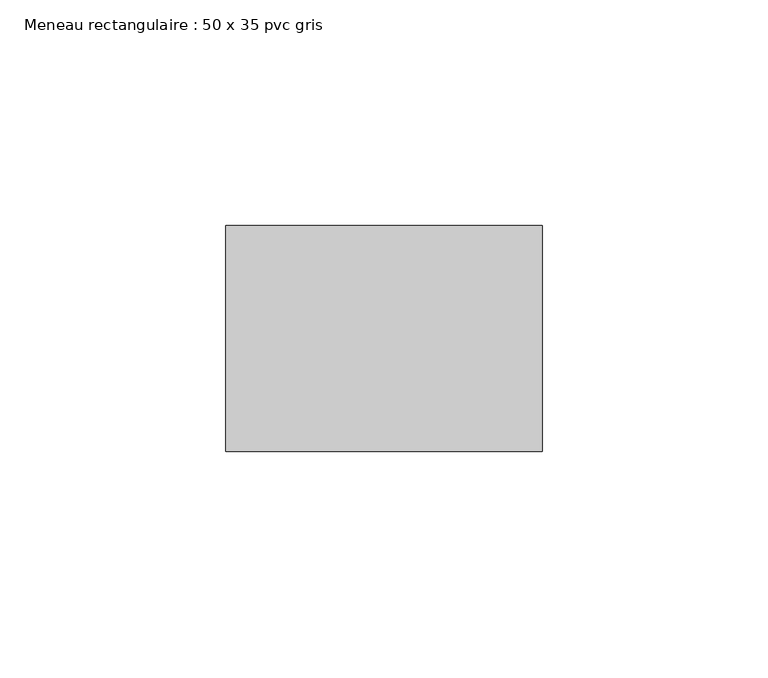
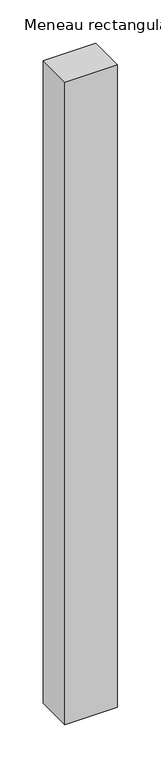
"""IFC4 building model written with IfcOpenShell, lengths in millimetres: member geometry, Meneau rectangulaire : 50 x 35 pvc gris."""

import ifcopenshell
import ifcopenshell.guid

model = None  # the IFC model being written
_history = None  # IfcOwnerHistory: only IFC2X3 demands one
_inside = {}  # id of a spatial element -> (the spatial element, [elements in it])
_under = {}  # id of a project, library or spatial element -> (it, [spatial elements below it])
_declared = {}  # id of a project -> (the project, [libraries it declares])
_typed = {}  # id of a type object -> (the type object, [elements of that type])
_made_of = {}  # id of a material, layer set ... -> (it, [elements and type objects made of it])


def new_model(schema):
    """Start an empty IFC model of exactly this schema.

    Asked for "IFC4X3", IfcOpenShell would pick the latest addendum, in which some entities
    have other attributes; the version numbers below select the first issue.
    IFC2X3 requires an IfcOwnerHistory on every rooted entity: one is made here for all.
    """
    global model, _history
    if schema == "IFC4X3":
        model = ifcopenshell.file(schema_version=(4, 3, 0, 0))
    else:
        model = ifcopenshell.file(schema=schema)
    _inside.clear()
    _under.clear()
    _declared.clear()
    _typed.clear()
    _made_of.clear()
    _history = None
    if model.schema == "IFC2X3":
        org = make("IfcOrganization", Name="unknown")
        user = make(
            "IfcPersonAndOrganization",
            ThePerson=make("IfcPerson", FamilyName="unknown"),
            TheOrganization=org,
        )
        app = make(
            "IfcApplication",
            ApplicationDeveloper=org,
            Version="unknown",
            ApplicationFullName="unknown",
            ApplicationIdentifier="unknown",
        )
        _history = make(
            "IfcOwnerHistory",
            OwningUser=user,
            OwningApplication=app,
            ChangeAction="ADDED",
            CreationDate=0,
        )
    return model


def make(cls, **values):
    """One entity of the class cls with the attributes given. An attribute that is None is left unset."""
    return model.create_entity(
        cls, **{name: value for name, value in values.items() if value is not None}
    )


def rooted(cls, **values):
    """An entity with a GlobalId (a new one), such as an element, a storey or a relation."""
    return make(cls, GlobalId=ifcopenshell.guid.new(), OwnerHistory=_history, **values)


def si_unit(unit_type, name, prefix=None):
    """IfcSIUnit, for example si_unit("LENGTHUNIT", "METRE", prefix="MILLI")."""
    return make("IfcSIUnit", UnitType=unit_type, Prefix=prefix, Name=name)


def assignment(units):
    """IfcUnitAssignment: the units of a project."""
    return None if units is None else make("IfcUnitAssignment", Units=units)


def point(xyz):
    """IfcCartesianPoint."""
    return None if xyz is None else make("IfcCartesianPoint", Coordinates=xyz)


def direction(xyz):
    """IfcDirection."""
    return None if xyz is None else make("IfcDirection", DirectionRatios=xyz)


def frame(location, z_axis=None, x_axis=None):
    """IfcAxis2Placement3D, a coordinate frame: its origin and axes. An axis left out is left unset."""
    return make(
        "IfcAxis2Placement3D",
        Location=point(location),
        Axis=direction(z_axis),
        RefDirection=direction(x_axis),
    )


def origin():
    """The frame at (0, 0, 0) with its axes left unset."""
    return frame((0.0, 0.0, 0.0))


def place(relative_to, where):
    """IfcLocalPlacement: puts the frame where relative to a parent placement (None: the world)."""
    return make(
        "IfcLocalPlacement", PlacementRelTo=relative_to, RelativePlacement=where
    )


def context(
    kind, dimensions, precision=None, world=None, true_north=None, identifier=None
):
    """IfcGeometricRepresentationContext, for example the 3D "Model" context."""
    return make(
        "IfcGeometricRepresentationContext",
        ContextIdentifier=identifier,
        ContextType=kind,
        CoordinateSpaceDimension=dimensions,
        Precision=precision,
        WorldCoordinateSystem=world,
        TrueNorth=true_north,
    )


def project(units=None, contexts=None):
    """IfcProject with its units and contexts."""
    return rooted(
        "IfcProject",
        Name="project",
        RepresentationContexts=contexts,
        UnitsInContext=assignment(units),
    )


def spatial(cls, under=None, at=None, **own):
    """A site, building, storey or space (cls), placed at a placement, below another one or the project."""
    s = rooted(cls, ObjectPlacement=at, **own)
    if under is not None:
        _under.setdefault(under.id(), (under, []))[1].append(s)
    return s


def polyline(points):
    """IfcPolyline through the points."""
    return make("IfcPolyline", Points=[point(p) for p in points])


def outline(outer, holes=None, kind="AREA"):
    """IfcArbitraryClosedProfileDef: a profile drawn as a closed curve; with holes, ...WithVoids."""
    if holes is None:
        return make("IfcArbitraryClosedProfileDef", ProfileType=kind, OuterCurve=outer)
    return make(
        "IfcArbitraryProfileDefWithVoids",
        ProfileType=kind,
        OuterCurve=outer,
        InnerCurves=holes,
    )


def extrude(swept, where, along, depth):
    """IfcExtrudedAreaSolid: the profile swept, set in the frame where, extruded along a direction by depth."""
    return make(
        "IfcExtrudedAreaSolid",
        SweptArea=swept,
        Position=where,
        ExtrudedDirection=direction(along),
        Depth=depth,
    )


def shape(context_of_items, identifier, shape_type, items):
    """IfcShapeRepresentation: the items that make up one representation, for example the "Body"."""
    return make(
        "IfcShapeRepresentation",
        ContextOfItems=context_of_items,
        RepresentationIdentifier=identifier,
        RepresentationType=shape_type,
        Items=items,
    )


def source(mapping_origin, context_of_items, identifier, shape_type, items):
    """IfcRepresentationMap: a shape defined once, which mapped items show again and again."""
    return make(
        "IfcRepresentationMap",
        MappingOrigin=mapping_origin,
        MappedRepresentation=shape(context_of_items, identifier, shape_type, items),
    )


def transform(
    local_origin,
    x_axis=None,
    y_axis=None,
    z_axis=None,
    scale=None,
    scale2=None,
    scale3=None,
    uniform=True,
):
    """IfcCartesianTransformationOperator3D, or its non-uniform kind. x_axis, y_axis, z_axis: its Axis1, 2, 3."""
    if uniform:
        return make(
            "IfcCartesianTransformationOperator3D",
            Axis1=direction(x_axis),
            Axis2=direction(y_axis),
            LocalOrigin=point(local_origin),
            Scale=scale,
            Axis3=direction(z_axis),
        )
    return make(
        "IfcCartesianTransformationOperator3DnonUniform",
        Axis1=direction(x_axis),
        Axis2=direction(y_axis),
        LocalOrigin=point(local_origin),
        Scale=scale,
        Axis3=direction(z_axis),
        Scale2=scale2,
        Scale3=scale3,
    )


def mapped(mapping_source, mapping_target):
    """IfcMappedItem: shows the shape of a source again, moved by a transform."""
    return make(
        "IfcMappedItem", MappingSource=mapping_source, MappingTarget=mapping_target
    )


def made_of(thing, what):
    """Note that an element or type object is made of a material, layer set ...; save() writes the relation."""
    if what is not None:
        _made_of.setdefault(what.id(), (what, []))[1].append(thing)
    return thing


def element(
    cls,
    number,
    at=None,
    inside=None,
    cuts=None,
    type_object=None,
    material=None,
    context=None,
    identifier="Body",
    shape_type=None,
    held_by="IfcProductDefinitionShape",
    body=None,
    shapes=None,
    **own,
):
    """One element of the class cls, such as IfcWall. Its Tag is "e" and its number.

    at: its placement. inside: the storey or other place that contains it. cuts: it is an
    opening in that element (IfcRelVoidsElement). A single representation is given by context,
    identifier, shape_type and body (its items); several are given by shapes. held_by: the class
    of the entity that holds the representations. save() writes the other relations.
    """
    e = rooted(cls, Tag="e%d" % number, ObjectPlacement=at, **own)
    if body is not None:
        shapes = [shape(context, identifier, shape_type, body)]
    if shapes is not None:
        e.Representation = make(held_by, Representations=shapes)
    if inside is not None:
        _inside.setdefault(inside.id(), (inside, []))[1].append(e)
    if cuts is not None:
        rooted(
            "IfcRelVoidsElement", RelatingBuildingElement=cuts, RelatedOpeningElement=e
        )
    if type_object is not None:
        _typed.setdefault(type_object.id(), (type_object, []))[1].append(e)
    return made_of(e, material)


def aggregate(whole, parts):
    """IfcRelAggregates: a whole, such as a stair, and the parts it consists of."""
    return rooted("IfcRelAggregates", RelatingObject=whole, RelatedObjects=parts)


def save(model, path):
    """Write the relations noted so far, then the file.

    IfcRelAggregates (storeys below a building ...), IfcRelContainedInSpatialStructure (elements
    in a storey), IfcRelDefinesByType, IfcRelAssociatesMaterial and IfcRelDeclares: one each for
    every whole, place, type object, material and project.
    """
    for whole, parts in _under.values():
        aggregate(whole, parts)
    for where, things in _inside.values():
        rooted(
            "IfcRelContainedInSpatialStructure",
            RelatedElements=things,
            RelatingStructure=where,
        )
    for kind, things in _typed.values():
        rooted("IfcRelDefinesByType", RelatedObjects=things, RelatingType=kind)
    for what, things in _made_of.values():
        rooted("IfcRelAssociatesMaterial", RelatedObjects=things, RelatingMaterial=what)
    for by, libraries in _declared.values():
        rooted("IfcRelDeclares", RelatingContext=by, RelatedDefinitions=libraries)
    model.write(path)


def meneau_rectangulaire_50_x_35_pvc_gris_97fcdb64(model_context):
    return source(origin(), model_context, "Body", "SweptSolid", [
        extrude(outline(polyline([(35.0, 0.0), (35.0, -50.0), (-35.0, -50.0), (-35.0, 0.0), (35.0, 0.0)])), frame((0.0, 0.0, -906.3980781), z_axis=(0.0, 0.0, 1.0), x_axis=(1.0, 0.0, 0.0)), (0.0, 0.0, 1.0), 906.3980781),
    ])


if __name__ == "__main__":
    model = new_model("IFC4")
    model_context = context("Model", 3, world=origin())
    ifc_project = project(units=[si_unit("LENGTHUNIT", "METRE", prefix="MILLI")], contexts=[model_context])
    site = spatial("IfcSite", under=ifc_project)
    building = spatial("IfcBuilding", under=site)
    placement = place(None, origin())
    meneau_rectangulaire_50_x_35_pvc_gris_shape = meneau_rectangulaire_50_x_35_pvc_gris_97fcdb64(model_context)
    element("IfcMember", 1, ObjectType="Meneau rectangulaire : 50 x 35 pvc gris", at=placement, inside=building, context=model_context, shape_type="MappedRepresentation", body=[
        mapped(meneau_rectangulaire_50_x_35_pvc_gris_shape, transform((0.0, 0.0, 0.0), x_axis=(1.0, 0.0, 0.0), y_axis=(0.0, 1.0, 0.0), z_axis=(0.0, 0.0, 1.0))),
    ])
    save(model, "model.ifc")
